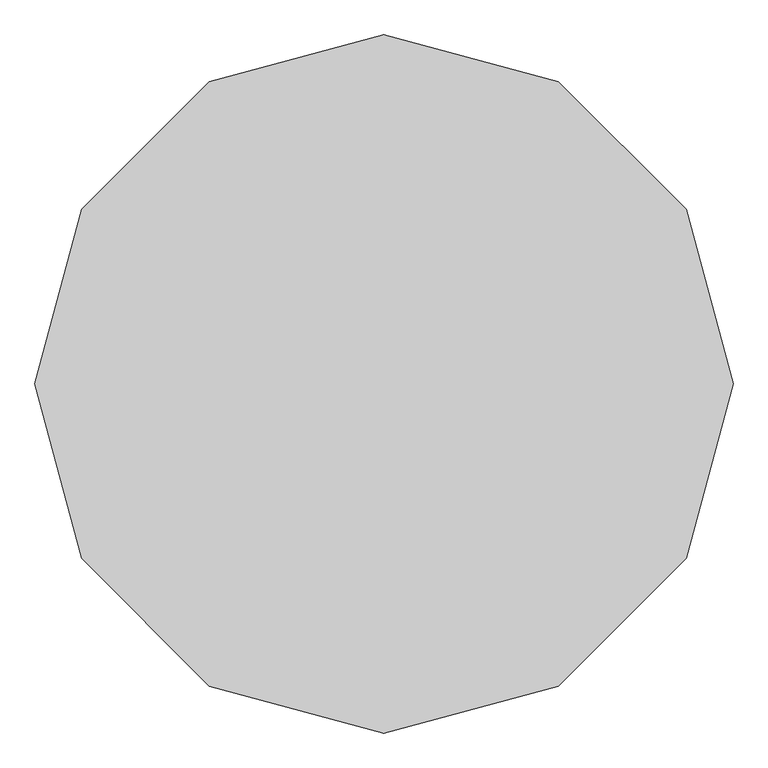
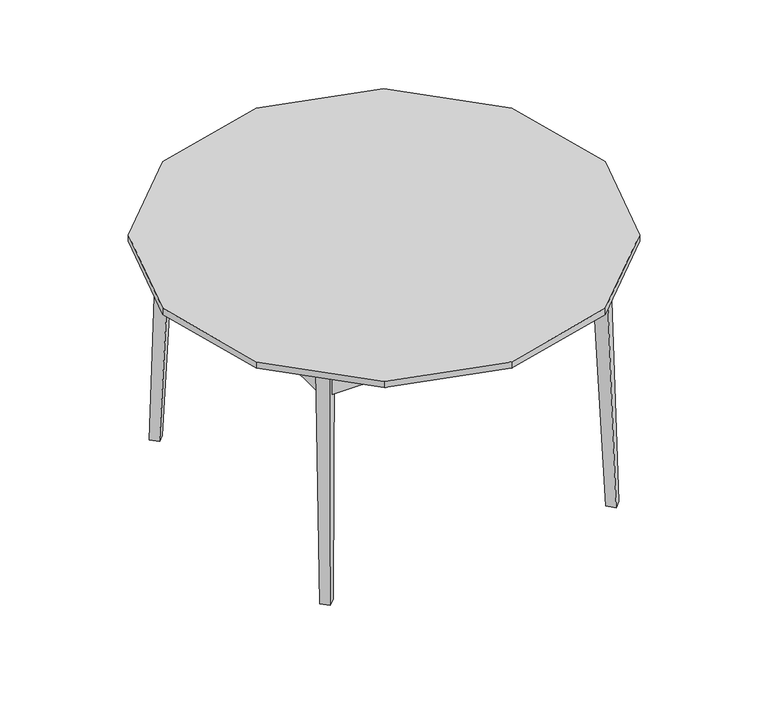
"""IFC4 building model written with IfcOpenShell, lengths in millimetres: geographic element geometry, Enscape AssetDefinition - Ease Round Table : Enscape AssetDefinition - Ease Round Table."""

from ifc_helpers import new_model, si_unit, origin, place, context, project, spatial, triangles, source, transform, mapped, element, save


def geographic_element_ad5755f3(model_context):
    return source(origin(), model_context, "Body", "Tessellation", [
        triangles([(0.0, 675.8049706, 762.0009447), (-675.8049706, 0.0, 742.0010027), (-675.8049706, 0.0, 762.0009447), (0.0, -675.8049706, 762.0009447), (-585.2640218, -337.9020129, 762.0009447), (-585.2640218, -337.9020129, 742.0010027), (-337.9020129, -585.2640218, 762.0009447), (337.9020129, -585.2640218, 762.0009447), (-337.9020129, -585.2640218, 742.0010027), (0.0, -675.8049706, 742.0010027), (337.9020129, -585.2640218, 742.0010027), (585.2640218, -337.9020129, 762.0009447), (585.2640218, -337.9020129, 742.0010027), (675.8049706, 0.0, 762.0009447), (675.8049706, 0.0, 742.0010027), (585.2640218, 337.9020129, 762.0009447), (337.9020129, 585.2640218, 742.0010027), (-337.9020129, 585.2640218, 762.0009447), (337.9020129, 585.2640218, 762.0009447), (0.0, 675.8049706, 742.0010027), (-585.2640218, 337.9020129, 742.0010027), (585.2640218, 337.9020129, 742.0010027), (-337.9020129, 585.2640218, 742.0010027), (-585.2640218, 337.9020129, 762.0009447), (413.4170257, 446.6839994, 0.0), (433.6870093, 466.9539831, 0.0), (433.6870093, 426.4140158, 0.0), (394.5379818, 420.4539871, 742.1569525), (422.4959773, 392.4959916, 742.1569525), (422.4959773, 448.412019, 742.1569525), (450.4530281, 420.4539871, 742.1569525), (453.956993, 446.6839994, 0.0), (437.6939959, 428.5139966, 655.3419754), (437.6939959, -429.0009945, 741.9999853), (437.6939959, 428.5139966, 741.9999853), (422.694003, 428.5139966, 741.9999853), (422.694003, 428.5139966, 655.3419754), (422.694003, -429.0009945, 655.3419754), (422.694003, -429.0009945, 741.9999853), (437.6939959, -429.0009945, 655.3419754), (466.9539831, -433.6870093, 0.0), (448.412019, -422.4959773, 742.1569525), (420.4539871, -394.5379818, 742.1569525), (420.4539871, -450.4530281, 742.1569525), (426.4140158, -433.6870093, 0.0), (392.4959916, -422.4959773, 742.1569525), (446.6839994, -413.4170257, 0.0), (446.6839994, -453.956993, 0.0), (-429.0009945, -437.6939959, 655.3419754), (428.5139966, -437.6939959, 741.9999853), (-429.0009945, -422.694003, 741.9999853), (-429.0009945, -437.6939959, 741.9999853), (428.5139966, -437.6939959, 655.3419754), (-429.0009945, -422.694003, 655.3419754), (428.5139966, -422.694003, 655.3419754), (428.5139966, -422.694003, 741.9999853), (-433.6870093, -466.9539831, 0.0), (-433.6870093, -426.4140158, 0.0), (-413.4170257, -446.6839994, 0.0), (-422.4959773, -392.4959916, 742.1569525), (-422.4959773, -448.412019, 742.1569525), (-394.5379818, -420.4539871, 742.1569525), (-450.4530281, -420.4539871, 742.1569525), (-453.956993, -446.6839994, 0.0), (-437.6939959, -428.5139966, 741.9999853), (-422.694003, -428.5139966, 741.9999853), (-422.2269894, 403.0869876, 744.7010559), (-438.1609732, 403.0869876, 744.7010559), (-437.6939959, -428.5139966, 655.3419754), (-422.694003, -428.5139966, 655.3419754), (-422.2269894, 403.0869876, 652.6419949), (-438.1609732, 403.0869876, 652.6419949), (-446.6839994, 413.4170257, 0.0), (-466.9539831, 433.6870093, 0.0), (-426.4140158, 433.6870093, 0.0), (-446.6839994, 453.956993, 0.0), (-420.4539871, 394.5379818, 742.1569525), (-392.4959916, 422.4959773, 742.1569525), (-448.412019, 422.4959773, 742.1569525), (-420.4539871, 450.4530281, 742.1569525), (429.0009945, 422.694003, 741.9999853), (429.0009945, 437.6939959, 741.9999853), (429.0009945, 437.6939959, 655.3419754), (-428.5139966, 437.6939959, 655.3419754), (-428.5139966, 422.694003, 655.3419754), (429.0009945, 422.694003, 655.3419754), (-428.5139966, 422.694003, 741.9999853), (-428.5139966, 437.6939959, 741.9999853)], [[81, 86, 83], [85, 86, 81], [85, 81, 87], [88, 87, 81], [85, 87, 88], [86, 85, 84], [86, 84, 83], [85, 88, 84], [82, 83, 84], [88, 81, 82], [81, 83, 82], [82, 84, 88], [79, 80, 76], [78, 80, 79], [78, 79, 77], [73, 77, 79], [75, 78, 77], [80, 78, 75], [75, 77, 73], [80, 75, 76], [74, 76, 75], [79, 76, 74], [73, 79, 74], [74, 75, 73], [72, 71, 70], [67, 71, 72], [70, 71, 67], [70, 67, 66], [70, 66, 65], [72, 70, 69], [70, 65, 69], [66, 67, 68], [68, 72, 69], [66, 68, 65], [67, 72, 68], [68, 69, 65], [61, 63, 64], [60, 63, 61], [60, 61, 62], [59, 62, 61], [58, 60, 62], [63, 60, 58], [58, 62, 59], [63, 58, 64], [57, 64, 58], [61, 64, 57], [59, 61, 57], [57, 58, 59], [51, 54, 49], [55, 54, 51], [55, 51, 56], [50, 56, 51], [55, 56, 50], [54, 55, 53], [54, 53, 49], [55, 50, 53], [52, 49, 53], [50, 51, 52], [51, 49, 52], [52, 53, 50], [42, 44, 48], [46, 44, 42], [46, 42, 43], [47, 43, 42], [44, 46, 45], [45, 46, 43], [44, 45, 48], [45, 43, 47], [41, 48, 45], [42, 48, 41], [47, 42, 41], [41, 45, 47], [39, 38, 40], [37, 38, 39], [37, 39, 36], [35, 36, 39], [37, 36, 35], [38, 37, 33], [38, 33, 40], [37, 35, 33], [34, 40, 33], [35, 39, 34], [39, 40, 34], [34, 33, 35], [30, 31, 32], [29, 31, 30], [29, 30, 28], [25, 28, 30], [27, 29, 28], [31, 29, 27], [27, 28, 25], [31, 27, 32], [26, 32, 27], [30, 32, 26], [25, 30, 26], [26, 27, 25], [21, 2, 3], [6, 2, 21], [23, 21, 24], [21, 3, 24], [23, 24, 18], [20, 23, 18], [21, 20, 22], [21, 23, 20], [20, 17, 22], [22, 17, 19], [17, 20, 1], [1, 18, 24], [20, 18, 1], [17, 1, 19], [16, 19, 1], [22, 19, 16], [15, 22, 16], [15, 16, 14], [12, 16, 1], [12, 14, 16], [13, 15, 14], [22, 15, 13], [13, 14, 12], [11, 13, 12], [11, 12, 8], [10, 11, 8], [10, 6, 21], [22, 13, 10], [13, 11, 10], [22, 10, 21], [10, 9, 6], [9, 10, 4], [4, 8, 12], [10, 8, 4], [6, 9, 7], [9, 4, 7], [2, 6, 5], [5, 4, 12], [1, 24, 5], [5, 7, 4], [24, 3, 5], [2, 5, 3], [6, 7, 5], [5, 12, 1]]),
    ])


if __name__ == "__main__":
    model = new_model("IFC4")
    model_context = context("Model", 3, world=origin())
    ifc_project = project(units=[si_unit("LENGTHUNIT", "METRE", prefix="MILLI")], contexts=[model_context])
    site = spatial("IfcSite", under=ifc_project)
    building = spatial("IfcBuilding", under=site)
    placement = place(None, origin())
    geographic_element_shape = geographic_element_ad5755f3(model_context)
    element("IfcGeographicElement", 1, ObjectType="Enscape AssetDefinition - Ease Round Table : Enscape AssetDefinition - Ease Round Table", at=placement, inside=building, context=model_context, shape_type="MappedRepresentation", body=[
        mapped(geographic_element_shape, transform((0.0, 0.0, 0.0), x_axis=(1.0, 0.0, 0.0), y_axis=(0.0, 1.0, 0.0), z_axis=(0.0, 0.0, 1.0))),
    ])
    save(model, "model.ifc")
